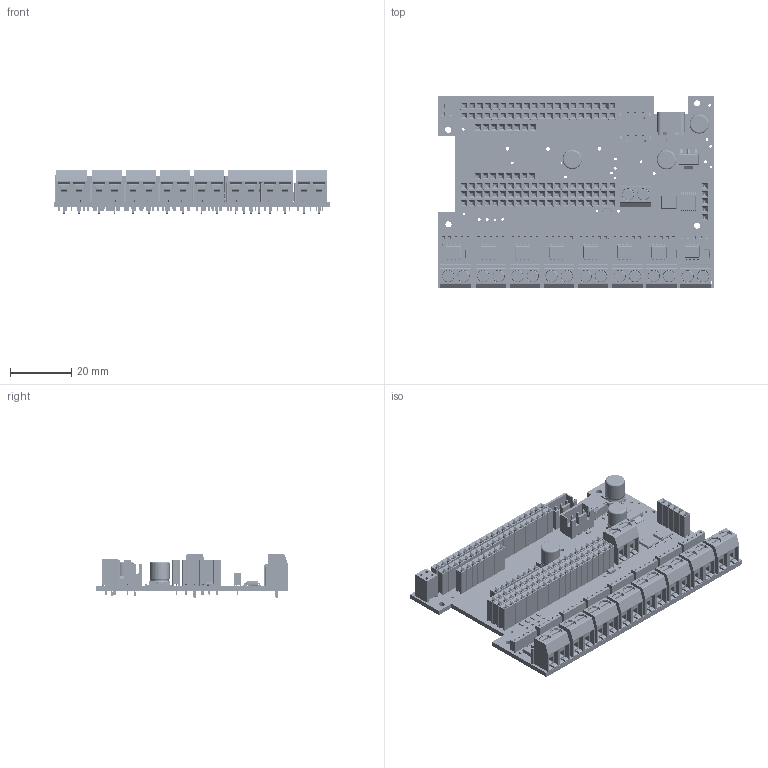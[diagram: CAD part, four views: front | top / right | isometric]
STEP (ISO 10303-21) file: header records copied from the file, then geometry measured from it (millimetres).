
FILE_DESCRIPTION(('Designed by EasyEDA Pro'),'2;1');
FILE_NAME('Open CASCADE Shape Model','2024-11-17T18:47:09',('Author'),( 'Open CASCADE'),'Open CASCADE STEP processor 7.8','Open CASCADE 7.8' ,'Unknown');
FILE_SCHEMA(('AUTOMOTIVE_DESIGN { 1 0 10303 214 1 1 1 1 }'));
Length unit declared in the file: millimetre
Products named in the file (105): PCBModel; TopTrack; BottomTrack; Board; NoLa-R2; R0402; SOLID; NoLa-R1; NoLa-U3; SOT-223-4_L6.5-W3.5-P2.30-LS7.0-BR; COMPOUND; NoLa-USB-C; USB-C-SMD_TYPE-C-6PIN-2MD-073; NoLa-MD-6; SOP-8_L4.9-W3.9-P1.27-LS6.0-BL; NoLa-MD-5; NoLa-MD-4; NoLa-MD-3; NoLa-MD-2; NoLa-MD-1; NoLa-MD-8; NoLa-MD-7; NoLa-D11; SOD-123FL_L2.8-W1.8-LS3.7-RD; NoLa-D10; NoLa-D9; NoLa-D8; NoLa-D7; NoLa-D13; NoLa-D4; NoLa-D12; NoLa-SHIFT-2; TSSOP-16_L5.0-W4.4-P0.65-LS6.4-BL; NoLa-SHIFT-1; NoLa-D6; SOD-123_L2.7-W1.6-LS3.7-R-RD; NoLa-R4; R0603; NoLa-R5; NoLa-R6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
Assembly tree (154 placements, depth 4):
  PCBModel
    TopTrack
    BottomTrack
    Board
    NoLa-R2
      R0402
        SOLID
    NoLa-R1
      R0402
        SOLID
    NoLa-U3
      SOT-223-4_L6.5-W3.5-P2.30-LS7.0-BR
        COMPOUND
    NoLa-USB-C
      USB-C-SMD_TYPE-C-6PIN-2MD-073
        COMPOUND
    NoLa-MD-6
      SOP-8_L4.9-W3.9-P1.27-LS6.0-BL
        COMPOUND
    NoLa-MD-5
      SOP-8_L4.9-W3.9-P1.27-LS6.0-BL
        COMPOUND
    NoLa-MD-4
      SOP-8_L4.9-W3.9-P1.27-LS6.0-BL
        COMPOUND
    NoLa-MD-3
      SOP-8_L4.9-W3.9-P1.27-LS6.0-BL
        COMPOUND
    NoLa-MD-2
      SOP-8_L4.9-W3.9-P1.27-LS6.0-BL
        COMPOUND
    NoLa-MD-1
      SOP-8_L4.9-W3.9-P1.27-LS6.0-BL
        COMPOUND
    NoLa-MD-8
      SOP-8_L4.9-W3.9-P1.27-LS6.0-BL
        COMPOUND
    NoLa-MD-7
      SOP-8_L4.9-W3.9-P1.27-LS6.0-BL
        COMPOUND
    NoLa-D11
      SOD-123FL_L2.8-W1.8-LS3.7-RD
        SOLID
    NoLa-D10
      SOD-123FL_L2.8-W1.8-LS3.7-RD
        SOLID
    NoLa-D9
      SOD-123FL_L2.8-W1.8-LS3.7-RD
        SOLID
    NoLa-D8
      SOD-123FL_L2.8-W1.8-LS3.7-RD
        SOLID
    NoLa-D7
      SOD-123FL_L2.8-W1.8-LS3.7-RD
        SOLID
    NoLa-D13
      SOD-123FL_L2.8-W1.8-LS3.7-RD
        SOLID
    NoLa-D4
      SOD-123FL_L2.8-W1.8-LS3.7-RD
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Bounding box: 90.14 x 62.84 x 14.3 mm (x, y, z)
Volume: 20999.3 mm3; surface area: 48314.4 mm2
Topology: 469 solids, 469 shells, 43401 faces, 113357 edges, 73106 vertices
Faces by surface type: plane 25408, bspline 9312, cylinder 7033, cone 648, torus 588, sphere 364, revolution 48
Entity records: 505180 total; most frequent: CARTESIAN_POINT 128080, ORIENTED_EDGE 61266, DIRECTION 47990, EDGE_CURVE 30633, LINE 21280, VECTOR 21280, VERTEX_POINT 19744, AXIS2_PLACEMENT_3D 13352
